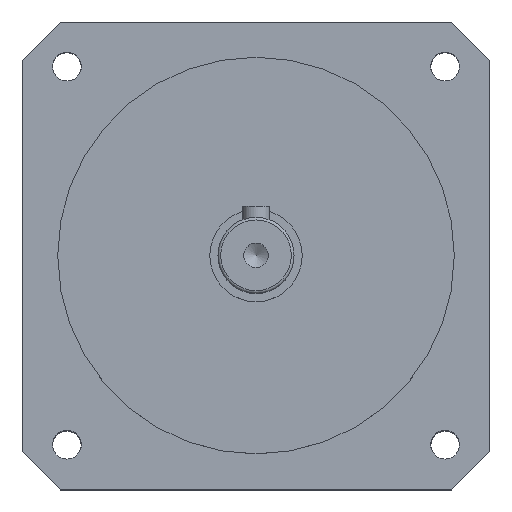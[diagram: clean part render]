
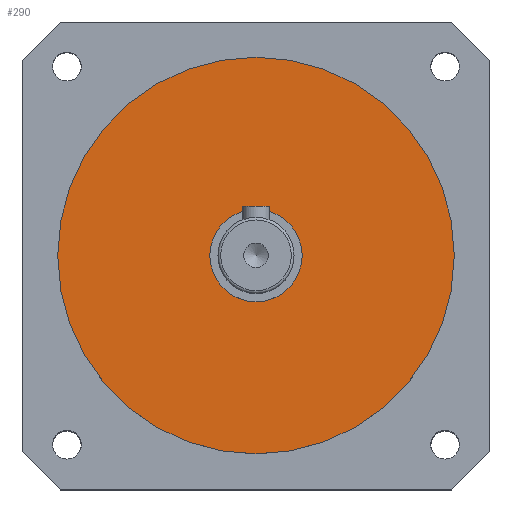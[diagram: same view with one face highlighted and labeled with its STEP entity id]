
A CAD part, top view. The second image highlights one B-rep face of the part: STEP entity #290.
In plain terms, the highlighted planar face has unit normal (0, 0, 1).
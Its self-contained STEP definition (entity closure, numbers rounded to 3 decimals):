
#290=ADVANCED_FACE('',(#405,#406),#351,.F.);
#351=PLANE('',#1100);
#405=FACE_BOUND('',#495,.T.);
#406=FACE_BOUND('',#496,.T.);
#495=EDGE_LOOP('',(#626));
#496=EDGE_LOOP('',(#627));
#626=ORIENTED_EDGE('',*,*,#940,.F.);
#627=ORIENTED_EDGE('',*,*,#935,.F.);
#843=VERTEX_POINT('',#1553);
#848=VERTEX_POINT('',#1567);
#935=EDGE_CURVE('',#843,#843,#1030,.T.);
#940=EDGE_CURVE('',#848,#848,#1035,.T.);
#1030=CIRCLE('',#1088,8.5);
#1035=CIRCLE('',#1097,36.5);
#1088=AXIS2_PLACEMENT_3D('',#1552,#1247,#1248);
#1097=AXIS2_PLACEMENT_3D('',#1566,#1265,#1266);
#1100=AXIS2_PLACEMENT_3D('',#1571,#1271,#1272);
#1247=DIRECTION('',(0.,0.,1.));
#1248=DIRECTION('',(1.,0.,0.));
#1265=DIRECTION('',(0.,0.,-1.));
#1266=DIRECTION('',(1.,0.,0.));
#1271=DIRECTION('',(0.,0.,-1.));
#1272=DIRECTION('',(-1.,0.,0.));
#1552=CARTESIAN_POINT('',(0.,0.,2.5));
#1553=CARTESIAN_POINT('',(8.5,0.,2.5));
#1566=CARTESIAN_POINT('',(0.,0.,2.5));
#1567=CARTESIAN_POINT('',(36.5,0.,2.5));
#1571=CARTESIAN_POINT('',(0.,0.,2.5));
